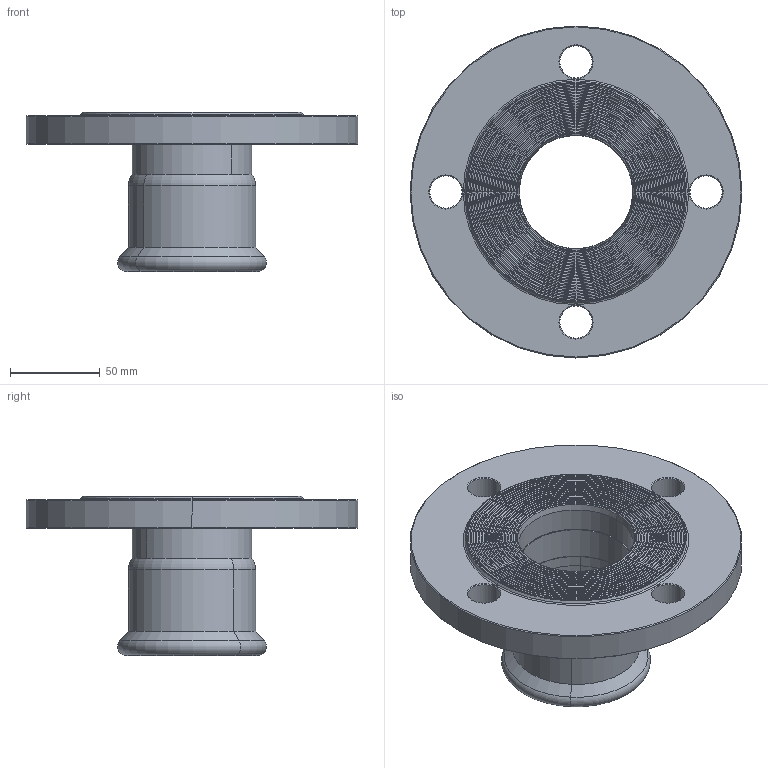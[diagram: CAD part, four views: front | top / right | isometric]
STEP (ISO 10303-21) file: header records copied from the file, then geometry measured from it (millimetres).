
FILE_DESCRIPTION(('CoCreate Modeling STEP Export'),'2;1');
FILE_NAME('C1426 67.stp','2014-10-23T16:02:58',(''),(''),'CoCreate Modeling STEP processor for AP214 (Solid Model)','CoCreate Modeling 17.00A 17-Jun-2010 (C) Parametric Technology GmbH','');
FILE_SCHEMA(('AUTOMOTIVE_DESIGN { 1 0 10303 214 1 1 1 1 }'));
Length unit declared in the file: millimetre
Products named in the file (2): Flens_PN10-16_67mm
Assembly tree (1 placements, depth 2):
  Flens_PN10-16_67mm
    Flens_PN10-16_67mm
Bounding box: 185 x 185 x 89.04 mm (x, y, z)
Volume: 418473.3 mm3; surface area: 95306.1 mm2
Topology: 1 solids, 1 shells, 163 faces, 346 edges, 206 vertices
Faces by surface type: torus 72, cone 42, cylinder 26, plane 23
Entity records: 3476 total; most frequent: ORIENTED_EDGE 692, DIRECTION 532, CARTESIAN_POINT 506, EDGE_CURVE 346, AXIS2_PLACEMENT_3D 232, VERTEX_POINT 206, EDGE_LOOP 194, CIRCLE 169
